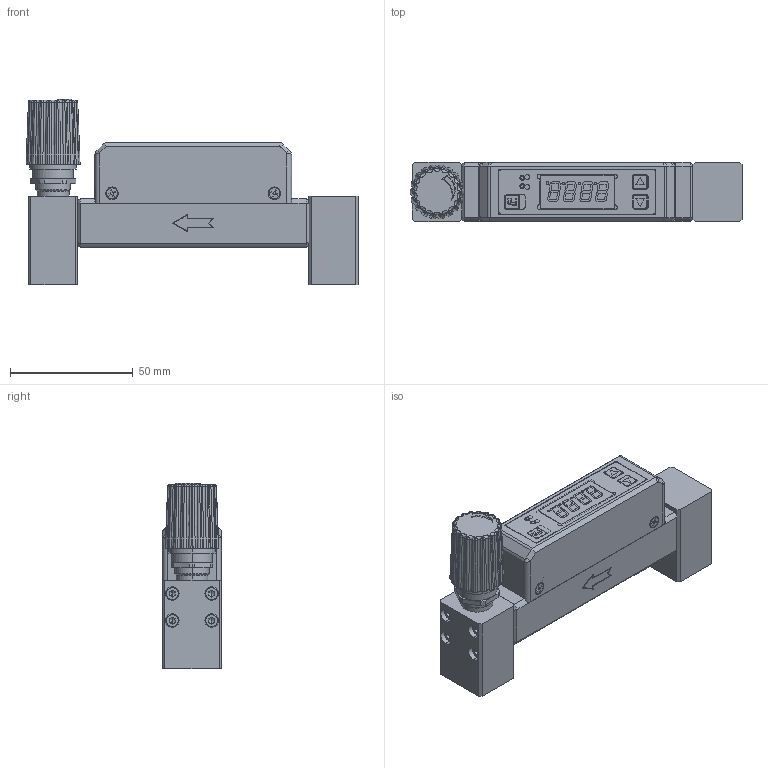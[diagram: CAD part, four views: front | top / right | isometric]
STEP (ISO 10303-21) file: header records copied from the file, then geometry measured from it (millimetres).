
FILE_DESCRIPTION (( 'STEP AP203' ), '1' );
FILE_NAME ('MF4602&MF4603 3D.STEP', '2021-12-15T03:46:36', ( '' ), ( '' ), 'SwSTEP 2.0', 'SolidWorks 2019', '' );
FILE_SCHEMA (( 'CONFIG_CONTROL_DESIGN' ));
Length unit declared in the file: millimetre
Products named in the file (1): MF4602&MF4603 3D
Bounding box: 135 x 24 x 75.3 mm (x, y, z)
Volume: 101614.8 mm3; surface area: 58748.9 mm2
Topology: 85 solids, 85 shells, 1921 faces, 4689 edges, 3015 vertices
Faces by surface type: plane 1016, cylinder 485, cone 241, bspline 76, torus 55, sphere 48
Entity records: 58597 total; most frequent: CARTESIAN_POINT 13072, DIRECTION 9518, ORIENTED_EDGE 9238, EDGE_CURVE 4619, AXIS2_PLACEMENT_3D 3308, VERTEX_POINT 3015, VECTOR 2902, LINE 2902
